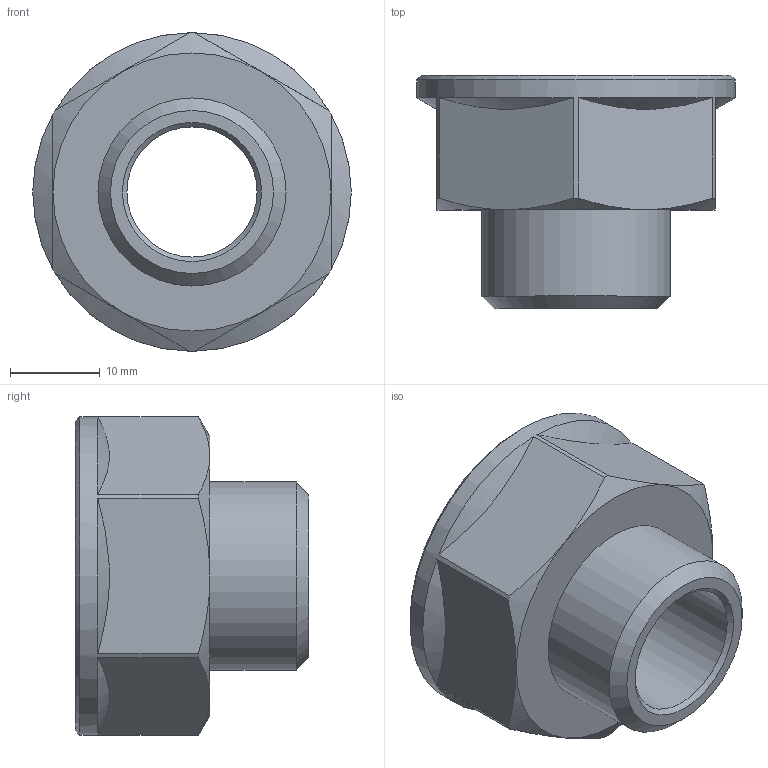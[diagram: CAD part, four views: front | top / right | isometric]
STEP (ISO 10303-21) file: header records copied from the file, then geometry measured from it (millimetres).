
FILE_DESCRIPTION(('STEP AP203'), '1');
FILE_NAME('ﾂﾐ.753138.007 - VTr.592.N.0504 ﾏ褞襄. G3-4xG1-2', '2024-07-08T08:50:03', ('Boss'), (''), 'C3D Converter', 'C3D Toolkit', '');
FILE_SCHEMA(('CONFIG_CONTROL_DESIGN'));
Length unit declared in the file: millimetre
Products named in the file (1): ВР.753138.007
Bounding box: 35.5 x 26 x 35.5 mm (x, y, z)
Volume: 8609 mm3; surface area: 5266.9 mm2
Topology: 1 solids, 1 shells, 31 faces, 70 edges, 43 vertices
Faces by surface type: cone 16, plane 10, cylinder 4, torus 1
Full cylindrical faces by diameter (mm): 14.5 x1, 20.955 x1, 24.118 x1, 35.5 x1
Entity records: 1362 total; most frequent: CARTESIAN_POINT 734, DIRECTION 126, ORIENTED_EDGE 110, AXIS2_PLACEMENT_3D 57, EDGE_CURVE 55, EDGE_LOOP 41, VERTEX_POINT 40, ADVANCED_FACE 28
